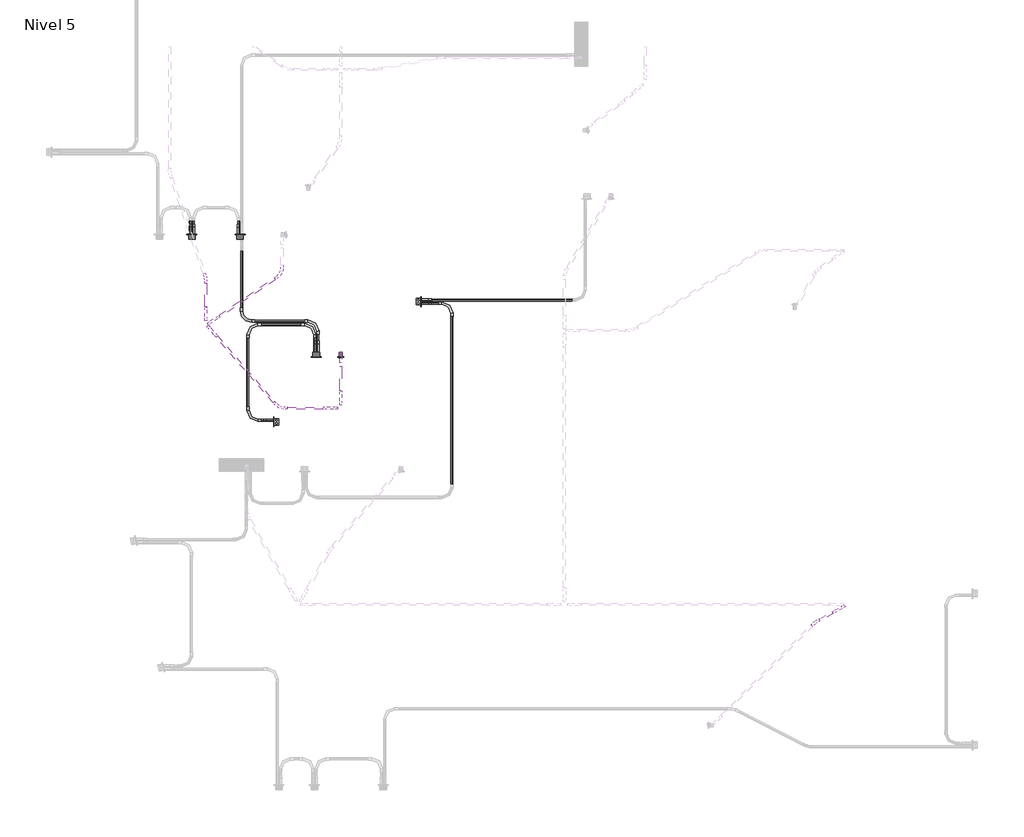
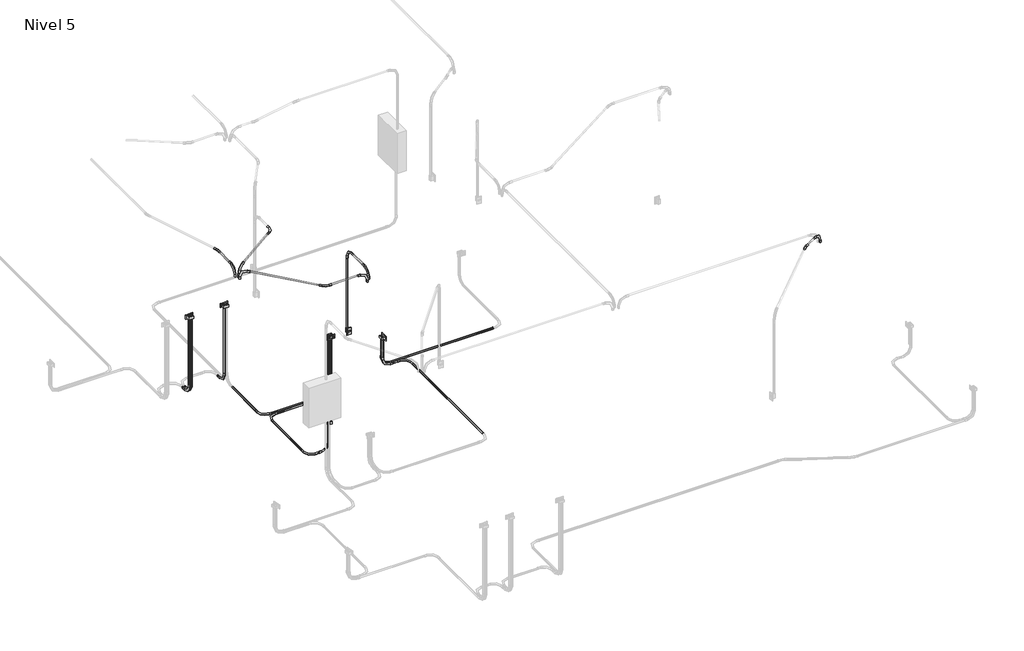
# One storey, part 4 of 9: 28 cable carrier segments, 25 cable carrier fittings, 5 proxies, 1 switching device.
"""IFC4 building model written with IfcOpenShell, lengths in millimetres."""

from ifc_helpers import new_model, si_unit, point, frame, frame_2d, origin, place, context, project, spatial, circle_curve, trimmed, segment, composite_curve, outline, extrude, transform, mapped, element, save
from components import gfci_180f1b41, m_codo_de_tubo_extremo_liso_pvc_9da73e12, m_codo_de_tubo_extremo_liso_pvc_b8f63c1c, m_codo_de_tubo_extremo_liso_pvc_102f0f41, m_codo_de_tubo_extremo_liso_pvc_df1a18ac, m_codo_de_tubo_extremo_liso_pvc_f02e6b77, m_codo_de_tubo_extremo_liso_pvc_835d7cdf, m_codo_de_tubo_extremo_liso_pvc_5f2cad99, switching_device_22fed34b

model = new_model("IFC4")

# Units and contexts
model_context = context("Model", 3, world=origin())
ifc_project = project(units=[si_unit("LENGTHUNIT", "METRE", prefix="MILLI")], contexts=[model_context])

# Site, building, storey
site = spatial("IfcSite", under=ifc_project)
building = spatial("IfcBuilding", under=site)
storey = spatial("IfcBuildingStorey", under=building, Name="Nivel 5", Elevation=10750.0)

# Proxies
placement = place(None, origin())
gfci_shape = gfci_180f1b41(model_context)
element("IfcBuildingElementProxy", 1, Name="Tomacorriente doble 220V : GFCI", ObjectType="Tomacorriente doble 220V : GFCI", at=placement, inside=storey, context=model_context, shape_type="MappedRepresentation", body=[
    mapped(gfci_shape, transform((257.8191014, 6450.3626818, 11950.0), x_axis=(0.0, 0.0, 1.0), y_axis=(1.0, 0.0, 0.0), z_axis=(0.0, 1.0, 0.0))),
])
element("IfcBuildingElementProxy", 2, Name="Tomacorriente doble 220V : GFCI", ObjectType="Tomacorriente doble 220V : GFCI", at=placement, inside=storey, context=model_context, shape_type="MappedRepresentation", body=[
    mapped(gfci_shape, transform((811.8641856, 6450.3626818, 11950.0), x_axis=(0.0, 0.0, 1.0), y_axis=(1.0, 0.0, 0.0), z_axis=(0.0, 1.0, 0.0))),
])
element("IfcBuildingElementProxy", 3, Name="Tomacorriente doble 220V : GFCI", ObjectType="Tomacorriente doble 220V : GFCI", at=placement, inside=storey, context=model_context, shape_type="MappedRepresentation", body=[
    mapped(gfci_shape, transform((1685.3979564, 5050.3626818, 11950.0), x_axis=(0.0, 0.0, 1.0), y_axis=(-1.0, 0.0, 0.0), z_axis=(0.0, -1.0, 0.0))),
])
element("IfcBuildingElementProxy", 4, Name="Tomacorriente doble 220V : GFCI", ObjectType="Tomacorriente doble 220V : GFCI", at=placement, inside=storey, context=model_context, shape_type="MappedRepresentation", body=[
    mapped(gfci_shape, transform((1200.0, 4304.0592526, 11150.0), x_axis=(0.0, 0.0, 1.0), y_axis=(0.0, 1.0, 0.0), z_axis=(-1.0, 0.0, 0.0))),
])
element("IfcBuildingElementProxy", 5, Name="Tomacorriente doble 220V : GFCI", ObjectType="Tomacorriente doble 220V : GFCI", at=placement, inside=storey, context=model_context, shape_type="MappedRepresentation", body=[
    mapped(gfci_shape, transform((2885.0, 5682.6850176, 11150.0), x_axis=(0.0, 0.0, 1.0), y_axis=(0.0, -1.0, 0.0), z_axis=(1.0, 0.0, 0.0))),
])

# Cable carrier fittings
m_codo_de_tubo_extremo_liso_pvc_shape = m_codo_de_tubo_extremo_liso_pvc_9da73e12(model_context)
element("IfcCableCarrierFitting", 6, ObjectType="M_Codo de tubo - Extremo liso - PVC : CODO POTENCIA", at=placement, inside=storey, context=model_context, shape_type="MappedRepresentation", body=[
    mapped(m_codo_de_tubo_extremo_liso_pvc_shape, transform((239.7872816, 6420.72557, 10680.0), x_axis=(0.0, 0.0, -1.0), y_axis=(0.0, 1.0, 0.0), z_axis=(1.0, 0.0, 0.0))),
])
element("IfcCableCarrierFitting", 7, ObjectType="M_Codo de tubo - Extremo liso - PVC : CODO POTENCIA", at=placement, inside=storey, context=model_context, shape_type="MappedRepresentation", body=[
    mapped(m_codo_de_tubo_extremo_liso_pvc_shape, transform((275.8509212, 6420.72557, 10680.0), x_axis=(0.0, 0.0, -1.0), y_axis=(0.0, 1.0, 0.0), z_axis=(1.0, 0.0, 0.0))),
])
element("IfcCableCarrierFitting", 8, ObjectType="M_Codo de tubo - Extremo liso - PVC : CODO POTENCIA", at=placement, inside=storey, context=model_context, shape_type="MappedRepresentation", body=[
    mapped(m_codo_de_tubo_extremo_liso_pvc_shape, transform((793.8323658, 6420.72557, 10680.0), x_axis=(0.0, 0.0, -1.0), y_axis=(0.0, 1.0, 0.0), z_axis=(1.0, 0.0, 0.0))),
])
element("IfcCableCarrierFitting", 9, ObjectType="M_Codo de tubo - Extremo liso - PVC : CODO POTENCIA", at=placement, inside=storey, context=model_context, shape_type="MappedRepresentation", body=[
    mapped(m_codo_de_tubo_extremo_liso_pvc_shape, transform((1667.3661366, 5079.9997935, 10680.0), x_axis=(0.0, 0.0, -1.0), y_axis=(0.0, 1.0, 0.0), z_axis=(1.0, 0.0, 0.0))),
])
element("IfcCableCarrierFitting", 10, ObjectType="M_Codo de tubo - Extremo liso - PVC : CODO POTENCIA", at=placement, inside=storey, context=model_context, shape_type="MappedRepresentation", body=[
    mapped(m_codo_de_tubo_extremo_liso_pvc_shape, transform((1229.6371118, 4322.0910724, 10680.0), x_axis=(0.0, 0.0, -1.0), y_axis=(-1.0, 0.0, 0.0), z_axis=(0.0, 1.0, 0.0))),
])
element("IfcCableCarrierFitting", 11, ObjectType="M_Codo de tubo - Extremo liso - PVC : CODO POTENCIA", at=placement, inside=storey, context=model_context, shape_type="MappedRepresentation", body=[
    mapped(m_codo_de_tubo_extremo_liso_pvc_shape, transform((1703.4297762, 5079.9997935, 10680.0), x_axis=(0.0, 0.0, -1.0), y_axis=(0.0, 1.0, 0.0), z_axis=(1.0, 0.0, 0.0))),
])
element("IfcCableCarrierFitting", 12, ObjectType="M_Codo de tubo - Extremo liso - PVC : CODO POTENCIA", at=placement, inside=storey, context=model_context, shape_type="MappedRepresentation", body=[
    mapped(m_codo_de_tubo_extremo_liso_pvc_shape, transform((900.7924962, 4322.0910724, 10680.0), x_axis=(0.0, -1.0, 0.0), y_axis=(1.0, 0.0, 0.0), z_axis=(0.0, 0.0, 1.0))),
])
element("IfcCableCarrierFitting", 13, ObjectType="M_Codo de tubo - Extremo liso - PVC : CODO POTENCIA", at=placement, inside=storey, context=model_context, shape_type="MappedRepresentation", body=[
    mapped(m_codo_de_tubo_extremo_liso_pvc_shape, transform((1667.3661366, 5420.0, 10680.0), x_axis=(0.0, 1.0, 0.0), y_axis=(-1.0, 0.0, 0.0), z_axis=(0.0, 0.0, 1.0))),
])
element("IfcCableCarrierFitting", 14, ObjectType="M_Codo de tubo - Extremo liso - PVC : CODO POTENCIA", at=placement, inside=storey, context=model_context, shape_type="MappedRepresentation", body=[
    mapped(m_codo_de_tubo_extremo_liso_pvc_shape, transform((900.7924962, 5420.0, 10680.0), x_axis=(-1.0, 0.0, 0.0), y_axis=(0.0, -1.0, 0.0), z_axis=(0.0, 0.0, 1.0))),
])
element("IfcCableCarrierFitting", 15, ObjectType="M_Codo de tubo - Extremo liso - PVC : CODO POTENCIA", at=placement, inside=storey, context=model_context, shape_type="MappedRepresentation", body=[
    mapped(m_codo_de_tubo_extremo_liso_pvc_shape, transform((1703.4297762, 5459.9997935, 10680.0), x_axis=(0.0, 1.0, 0.0), y_axis=(-1.0, 0.0, 0.0), z_axis=(0.0, 0.0, 1.0))),
])
element("IfcCableCarrierFitting", 16, ObjectType="M_Codo de tubo - Extremo liso - PVC : CODO POTENCIA", at=placement, inside=storey, context=model_context, shape_type="MappedRepresentation", body=[
    mapped(m_codo_de_tubo_extremo_liso_pvc_shape, transform((2855.3628882, 5700.7168374, 10680.0), x_axis=(0.0, 0.0, -1.0), y_axis=(1.0, 0.0, 0.0), z_axis=(0.0, -1.0, 0.0))),
])
element("IfcCableCarrierFitting", 17, ObjectType="M_Codo de tubo - Extremo liso - PVC : CODO POTENCIA", at=placement, inside=storey, context=model_context, shape_type="MappedRepresentation", body=[
    mapped(m_codo_de_tubo_extremo_liso_pvc_shape, transform((2855.3628882, 5664.6531978, 10680.0), x_axis=(0.0, 0.0, -1.0), y_axis=(1.0, 0.0, 0.0), z_axis=(0.0, -1.0, 0.0))),
])
element("IfcCableCarrierFitting", 18, ObjectType="M_Codo de tubo - Extremo liso - PVC : CODO POTENCIA", at=placement, inside=storey, context=model_context, shape_type="MappedRepresentation", body=[
    mapped(m_codo_de_tubo_extremo_liso_pvc_shape, transform((3240.3628882, 5664.6531978, 10680.0), x_axis=(0.0, 1.0, 0.0), y_axis=(-1.0, 0.0, 0.0), z_axis=(0.0, 0.0, 1.0))),
])
m_codo_de_tubo_extremo_liso_pvc_2_shape = m_codo_de_tubo_extremo_liso_pvc_b8f63c1c(model_context)
element("IfcCableCarrierFitting", 19, ObjectType="M_Codo de tubo - Extremo liso - PVC : CODO POTENCIA", at=placement, inside=storey, context=model_context, shape_type="MappedRepresentation", body=[
    mapped(m_codo_de_tubo_extremo_liso_pvc_2_shape, transform((827.8377422, 5459.9997935, 10680.0), x_axis=(-0.0028176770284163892, -0.9999960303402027, 0.0), y_axis=(0.9999960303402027, -0.0028176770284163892, 0.0), z_axis=(0.0, 0.0, 1.0))),
])
element("IfcCableCarrierFitting", 20, ObjectType="M_Codo de tubo - Extremo liso - PVC : CODO ILUMINACION", at=placement, inside=storey, context=model_context, shape_type="MappedRepresentation", body=[
    mapped(m_codo_de_tubo_extremo_liso_pvc_shape, transform((445.0989312, 5397.4142384, 13300.0), x_axis=(-0.6560590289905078, 0.7547095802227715, 0.0), y_axis=(0.0, 0.0, -1.0), z_axis=(-0.7547095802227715, -0.6560590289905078, 0.0))),
])
element("IfcCableCarrierFitting", 21, ObjectType="M_Codo de tubo - Extremo liso - PVC : CODO ILUMINACION", at=placement, inside=storey, context=model_context, shape_type="MappedRepresentation", body=[
    mapped(m_codo_de_tubo_extremo_liso_pvc_shape, transform((449.5230666, 5431.0188835, 13300.0), x_axis=(-0.8290375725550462, -0.5591929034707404, 0.0), y_axis=(0.0, 0.0, -1.0000000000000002), z_axis=(0.5591929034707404, -0.8290375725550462, 0.0))),
])
element("IfcCableCarrierFitting", 22, ObjectType="M_Codo de tubo - Extremo liso - PVC : CODO ILUMINACION", at=placement, inside=storey, context=model_context, shape_type="MappedRepresentation", body=[
    mapped(m_codo_de_tubo_extremo_liso_pvc_shape, transform((1964.7640795, 4507.7359931, 13300.0), x_axis=(0.0, -1.0, 0.0), y_axis=(0.0, 0.0, -1.0), z_axis=(1.0, 0.0, 0.0))),
])
element("IfcCableCarrierFitting", 23, ObjectType="M_Codo de tubo - Extremo liso - PVC : CODO ILUMINACION", at=placement, inside=storey, context=model_context, shape_type="MappedRepresentation", body=[
    mapped(m_codo_de_tubo_extremo_liso_pvc_shape, transform((1964.7640795, 5093.5015574, 13300.0), x_axis=(0.0, 0.0, 1.0), y_axis=(0.0, -1.0, 0.0), z_axis=(1.0, 0.0, 0.0))),
])
element("IfcCableCarrierFitting", 24, ObjectType="M_Codo de tubo - Extremo liso - PVC : CODO ILUMINACION", at=placement, inside=storey, context=model_context, shape_type="MappedRepresentation", body=[
    mapped(m_codo_de_tubo_extremo_liso_pvc_shape, transform((7741.6034421, 2189.7488137, 13300.0), x_axis=(0.8746197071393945, 0.48480962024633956, 0.0), y_axis=(0.0, 0.0, -1.0000000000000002), z_axis=(-0.48480962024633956, 0.8746197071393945, 0.0))),
])
m_codo_de_tubo_extremo_liso_pvc_3_shape = m_codo_de_tubo_extremo_liso_pvc_102f0f41(model_context)
element("IfcCableCarrierFitting", 25, ObjectType="M_Codo de tubo - Extremo liso - PVC : CODO ILUMINACION", at=placement, inside=storey, context=model_context, shape_type="MappedRepresentation", body=[
    mapped(m_codo_de_tubo_extremo_liso_pvc_3_shape, transform((1918.1878701, 4461.1597837, 13300.0), x_axis=(1.0, 0.0, 0.0), y_axis=(0.0, 0.0, 1.0), z_axis=(0.0, -1.0, 0.0))),
])
element("IfcCableCarrierFitting", 26, ObjectType="M_Codo de tubo - Extremo liso - PVC : CODO ILUMINACION", at=placement, inside=storey, context=model_context, shape_type="MappedRepresentation", body=[
    mapped(m_codo_de_tubo_extremo_liso_pvc_3_shape, transform((417.6915024, 5473.9445156, 13300.0), x_axis=(0.0, -1.0, 0.0), y_axis=(0.0, 0.0, 1.0), z_axis=(-1.0, 0.0, 0.0))),
])
m_codo_de_tubo_extremo_liso_pvc_4_shape = m_codo_de_tubo_extremo_liso_pvc_df1a18ac(model_context)
element("IfcCableCarrierFitting", 27, ObjectType="M_Codo de tubo - Extremo liso - PVC : CODO ILUMINACION", at=placement, inside=storey, context=model_context, shape_type="MappedRepresentation", body=[
    mapped(m_codo_de_tubo_extremo_liso_pvc_4_shape, transform((417.6915024, 5952.9070139, 13300.0), x_axis=(0.0, 1.0, 0.0), y_axis=(-1.0, 0.0, 0.0), z_axis=(0.0, 0.0, 1.0))),
])
m_codo_de_tubo_extremo_liso_pvc_5_shape = m_codo_de_tubo_extremo_liso_pvc_f02e6b77(model_context)
element("IfcCableCarrierFitting", 28, ObjectType="M_Codo de tubo - Extremo liso - PVC : CODO ILUMINACION", at=placement, inside=storey, context=model_context, shape_type="MappedRepresentation", body=[
    mapped(m_codo_de_tubo_extremo_liso_pvc_5_shape, transform((1258.9725119, 4461.1597837, 13300.0), x_axis=(0.6560590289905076, -0.7547095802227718, 0.0), y_axis=(0.7547095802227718, 0.6560590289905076, 0.0), z_axis=(0.0, 0.0, 1.0))),
])
m_codo_de_tubo_extremo_liso_pvc_6_shape = m_codo_de_tubo_extremo_liso_pvc_835d7cdf(model_context)
element("IfcCableCarrierFitting", 29, ObjectType="M_Codo de tubo - Extremo liso - PVC : CODO ILUMINACION", at=placement, inside=storey, context=model_context, shape_type="MappedRepresentation", body=[
    mapped(m_codo_de_tubo_extremo_liso_pvc_6_shape, transform((1291.8611243, 5999.1830775, 13300.0), x_axis=(0.8290375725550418, 0.5591929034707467, 0.0), y_axis=(-0.5591929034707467, 0.8290375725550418, 0.0), z_axis=(0.0, 0.0, 1.0))),
])
m_codo_de_tubo_extremo_liso_pvc_7_shape = m_codo_de_tubo_extremo_liso_pvc_5f2cad99(model_context)
element("IfcCableCarrierFitting", 30, ObjectType="M_Codo de tubo - Extremo liso - PVC : CODO ILUMINACION", at=placement, inside=storey, context=model_context, shape_type="MappedRepresentation", body=[
    mapped(m_codo_de_tubo_extremo_liso_pvc_7_shape, transform((7408.3733336, 2005.0363484, 13300.0), x_axis=(-0.8746197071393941, -0.4848096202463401, 0.0), y_axis=(0.4848096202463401, -0.8746197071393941, 0.0), z_axis=(0.0, 0.0, 1.0))),
])

# Cable carrier segments
element("IfcCableCarrierSegment", 31, ObjectType="PVC-SEL, POTENCIA", at=placement, inside=storey, context=model_context, shape_type="SweptSolid", body=[
    extrude(outline(composite_curve([segment(trimmed(circle_curve(frame_2d((10680.0, 239.7872816)), 11.71), [point((10680.0, 251.4972816))], [point((10691.71, 239.7872816))], False, "CARTESIAN"), True, "CONTINUOUS"), segment(trimmed(circle_curve(frame_2d((10680.0, 239.7872816)), 11.71), [point((10691.71, 239.7872816))], [point((10680.0, 228.0772816))], False, "CARTESIAN"), True, "CONTINUOUS"), segment(trimmed(circle_curve(frame_2d((10680.0, 239.7872816)), 11.71), [point((10680.0, 228.0772816))], [point((10668.29, 239.7872816))], False, "CARTESIAN"), True, "CONTINUOUS"), segment(trimmed(circle_curve(frame_2d((10680.0, 239.7872816)), 11.71), [point((10668.29, 239.7872816))], [point((10680.0, 251.4972816))], False, "CARTESIAN"), True, "CONTINUOUS")], self_intersect=False)), frame((0.0, 6573.12557, 0.0), z_axis=(0.0, 1.0, 0.0), x_axis=(0.0, 0.0, 1.0)), (0.0, 0.0, 1.0), 35.1697532),
])
element("IfcCableCarrierSegment", 32, ObjectType="PVC-SEL, POTENCIA", at=placement, inside=storey, context=model_context, shape_type="SweptSolid", body=[
    extrude(outline(composite_curve([segment(trimmed(circle_curve(frame_2d((239.7872816, 6420.72557)), 11.71), [point((251.4972816, 6420.72557))], [point((239.7872816, 6409.01557))], False, "CARTESIAN"), True, "CONTINUOUS"), segment(trimmed(circle_curve(frame_2d((239.7872816, 6420.72557)), 11.71), [point((239.7872816, 6409.01557))], [point((228.0772816, 6420.72557))], False, "CARTESIAN"), True, "CONTINUOUS"), segment(trimmed(circle_curve(frame_2d((239.7872816, 6420.72557)), 11.71), [point((228.0772816, 6420.72557))], [point((239.7872816, 6432.43557))], False, "CARTESIAN"), True, "CONTINUOUS"), segment(trimmed(circle_curve(frame_2d((239.7872816, 6420.72557)), 11.71), [point((239.7872816, 6432.43557))], [point((251.4972816, 6420.72557))], False, "CARTESIAN"), True, "CONTINUOUS")], self_intersect=False)), frame((0.0, 0.0, 10832.4), z_axis=(0.0, 0.0, 1.0), x_axis=(1.0, 0.0, 0.0)), (0.0, 0.0, 1.0), 1097.3020537),
])
element("IfcCableCarrierSegment", 33, ObjectType="PVC-SEL, POTENCIA", at=placement, inside=storey, context=model_context, shape_type="SweptSolid", body=[
    extrude(outline(composite_curve([segment(trimmed(circle_curve(frame_2d((10680.0, 275.8509212)), 11.71), [point((10680.0, 287.5609212))], [point((10691.71, 275.8509212))], False, "CARTESIAN"), True, "CONTINUOUS"), segment(trimmed(circle_curve(frame_2d((10680.0, 275.8509212)), 11.71), [point((10691.71, 275.8509212))], [point((10680.0, 264.1409212))], False, "CARTESIAN"), True, "CONTINUOUS"), segment(trimmed(circle_curve(frame_2d((10680.0, 275.8509212)), 11.71), [point((10680.0, 264.1409212))], [point((10668.29, 275.8509212))], False, "CARTESIAN"), True, "CONTINUOUS"), segment(trimmed(circle_curve(frame_2d((10680.0, 275.8509212)), 11.71), [point((10668.29, 275.8509212))], [point((10680.0, 287.5609212))], False, "CARTESIAN"), True, "CONTINUOUS")], self_intersect=False)), frame((0.0, 6573.12557, 0.0), z_axis=(0.0, 1.0, 0.0), x_axis=(0.0, 0.0, 1.0)), (0.0, 0.0, 1.0), 35.1697532),
])
element("IfcCableCarrierSegment", 34, ObjectType="PVC-SEL, POTENCIA", at=placement, inside=storey, context=model_context, shape_type="SweptSolid", body=[
    extrude(outline(composite_curve([segment(trimmed(circle_curve(frame_2d((275.8509212, 6420.72557)), 11.71), [point((287.5609212, 6420.72557))], [point((275.8509212, 6409.01557))], False, "CARTESIAN"), True, "CONTINUOUS"), segment(trimmed(circle_curve(frame_2d((275.8509212, 6420.72557)), 11.71), [point((275.8509212, 6409.01557))], [point((264.1409212, 6420.72557))], False, "CARTESIAN"), True, "CONTINUOUS"), segment(trimmed(circle_curve(frame_2d((275.8509212, 6420.72557)), 11.71), [point((264.1409212, 6420.72557))], [point((275.8509212, 6432.43557))], False, "CARTESIAN"), True, "CONTINUOUS"), segment(trimmed(circle_curve(frame_2d((275.8509212, 6420.72557)), 11.71), [point((275.8509212, 6432.43557))], [point((287.5609212, 6420.72557))], False, "CARTESIAN"), True, "CONTINUOUS")], self_intersect=False)), frame((0.0, 0.0, 10832.4), z_axis=(0.0, 0.0, 1.0), x_axis=(1.0, 0.0, 0.0)), (0.0, 0.0, 1.0), 1097.3020537),
])
element("IfcCableCarrierSegment", 35, ObjectType="PVC-SEL, POTENCIA", at=placement, inside=storey, context=model_context, shape_type="SweptSolid", body=[
    extrude(outline(composite_curve([segment(trimmed(circle_curve(frame_2d((10680.0, 793.8323658)), 11.71), [point((10680.0, 805.5423658))], [point((10691.71, 793.8323658))], False, "CARTESIAN"), True, "CONTINUOUS"), segment(trimmed(circle_curve(frame_2d((10680.0, 793.8323658)), 11.71), [point((10691.71, 793.8323658))], [point((10680.0, 782.1223658))], False, "CARTESIAN"), True, "CONTINUOUS"), segment(trimmed(circle_curve(frame_2d((10680.0, 793.8323658)), 11.71), [point((10680.0, 782.1223658))], [point((10668.29, 793.8323658))], False, "CARTESIAN"), True, "CONTINUOUS"), segment(trimmed(circle_curve(frame_2d((10680.0, 793.8323658)), 11.71), [point((10668.29, 793.8323658))], [point((10680.0, 805.5423658))], False, "CARTESIAN"), True, "CONTINUOUS")], self_intersect=False)), frame((0.0, 6573.12557, 0.0), z_axis=(0.0, 1.0, 0.0), x_axis=(0.0, 0.0, 1.0)), (0.0, 0.0, 1.0), 35.1697532),
])
element("IfcCableCarrierSegment", 36, ObjectType="PVC-SEL, POTENCIA", at=placement, inside=storey, context=model_context, shape_type="SweptSolid", body=[
    extrude(outline(composite_curve([segment(trimmed(circle_curve(frame_2d((793.8323658, 6420.72557)), 11.71), [point((805.5423658, 6420.72557))], [point((793.8323658, 6409.01557))], False, "CARTESIAN"), True, "CONTINUOUS"), segment(trimmed(circle_curve(frame_2d((793.8323658, 6420.72557)), 11.71), [point((793.8323658, 6409.01557))], [point((782.1223658, 6420.72557))], False, "CARTESIAN"), True, "CONTINUOUS"), segment(trimmed(circle_curve(frame_2d((793.8323658, 6420.72557)), 11.71), [point((782.1223658, 6420.72557))], [point((793.8323658, 6432.43557))], False, "CARTESIAN"), True, "CONTINUOUS"), segment(trimmed(circle_curve(frame_2d((793.8323658, 6420.72557)), 11.71), [point((793.8323658, 6432.43557))], [point((805.5423658, 6420.72557))], False, "CARTESIAN"), True, "CONTINUOUS")], self_intersect=False)), frame((0.0, 0.0, 10832.4), z_axis=(0.0, 0.0, 1.0), x_axis=(1.0, 0.0, 0.0)), (0.0, 0.0, 1.0), 1097.3020537),
])
element("IfcCableCarrierSegment", 37, ObjectType="PVC-SEL, POTENCIA", at=placement, inside=storey, context=model_context, shape_type="SweptSolid", body=[
    extrude(outline(composite_curve([segment(trimmed(circle_curve(frame_2d((0.0, -11.71)), 11.71), [point((-11.71, -11.71))], [point((0.0, 0.0))], False, "CARTESIAN"), True, "CONTINUOUS"), segment(trimmed(circle_curve(frame_2d((0.0, -11.71)), 11.71), [point((0.0, 0.0))], [point((11.7100001, -11.71))], False, "CARTESIAN"), True, "CONTINUOUS"), segment(trimmed(circle_curve(frame_2d((0.0, -11.71)), 11.71), [point((11.7100001, -11.71))], [point((0.0, -23.42))], False, "CARTESIAN"), True, "CONTINUOUS"), segment(trimmed(circle_curve(frame_2d((0.0, -11.71)), 11.71), [point((0.0, -23.42))], [point((-11.71, -11.71))], False, "CARTESIAN"), True, "CONTINUOUS")], self_intersect=False)), frame((828.2680649, 5612.7217028, 10668.29), z_axis=(0.002817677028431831, 0.9999960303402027, 0.0), x_axis=(0.9999960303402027, -0.002817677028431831, 0.0)), (0.0, 0.0, 1.0), 654.5088944),
])
element("IfcCableCarrierSegment", 38, ObjectType="PVC-SEL, POTENCIA", at=placement, inside=storey, context=model_context, shape_type="SweptSolid", body=[
    extrude(outline(composite_curve([segment(trimmed(circle_curve(frame_2d((10680.0, 1667.3661366)), 11.71), [point((10680.0, 1679.0761366))], [point((10691.71, 1667.3661366))], False, "CARTESIAN"), True, "CONTINUOUS"), segment(trimmed(circle_curve(frame_2d((10680.0, 1667.3661366)), 11.71), [point((10691.71, 1667.3661366))], [point((10680.0, 1655.6561366))], False, "CARTESIAN"), True, "CONTINUOUS"), segment(trimmed(circle_curve(frame_2d((10680.0, 1667.3661366)), 11.71), [point((10680.0, 1655.6561366))], [point((10668.29, 1667.3661366))], False, "CARTESIAN"), True, "CONTINUOUS"), segment(trimmed(circle_curve(frame_2d((10680.0, 1667.3661366)), 11.71), [point((10668.29, 1667.3661366))], [point((10680.0, 1679.0761366))], False, "CARTESIAN"), True, "CONTINUOUS")], self_intersect=False)), frame((0.0, 5232.3997935, 0.0), z_axis=(0.0, 1.0, 0.0), x_axis=(0.0, 0.0, 1.0)), (0.0, 0.0, 1.0), 35.2002065),
])
element("IfcCableCarrierSegment", 39, ObjectType="PVC-SEL, POTENCIA", at=placement, inside=storey, context=model_context, shape_type="SweptSolid", body=[
    extrude(outline(composite_curve([segment(trimmed(circle_curve(frame_2d((1667.3661366, 5079.9997935)), 11.71), [point((1679.0761366, 5079.9997935))], [point((1667.3661366, 5068.2897935))], False, "CARTESIAN"), True, "CONTINUOUS"), segment(trimmed(circle_curve(frame_2d((1667.3661366, 5079.9997935)), 11.71), [point((1667.3661366, 5068.2897935))], [point((1655.6561366, 5079.9997935))], False, "CARTESIAN"), True, "CONTINUOUS"), segment(trimmed(circle_curve(frame_2d((1667.3661366, 5079.9997935)), 11.71), [point((1655.6561366, 5079.9997935))], [point((1667.3661366, 5091.7097935))], False, "CARTESIAN"), True, "CONTINUOUS"), segment(trimmed(circle_curve(frame_2d((1667.3661366, 5079.9997935)), 11.71), [point((1667.3661366, 5091.7097935))], [point((1679.0761366, 5079.9997935))], False, "CARTESIAN"), True, "CONTINUOUS")], self_intersect=False)), frame((0.0, 0.0, 10832.4), z_axis=(0.0, 0.0, 1.0), x_axis=(1.0, 0.0, 0.0)), (0.0, 0.0, 1.0), 1097.3020537),
])
element("IfcCableCarrierSegment", 40, ObjectType="PVC-SEL, POTENCIA", at=placement, inside=storey, context=model_context, shape_type="SweptSolid", body=[
    extrude(outline(composite_curve([segment(trimmed(circle_curve(frame_2d((4322.0910724, 10680.0)), 11.71), [point((4333.8010724, 10680.0))], [point((4322.0910724, 10668.29))], False, "CARTESIAN"), True, "CONTINUOUS"), segment(trimmed(circle_curve(frame_2d((4322.0910724, 10680.0)), 11.71), [point((4322.0910724, 10668.29))], [point((4310.3810724, 10680.0))], False, "CARTESIAN"), True, "CONTINUOUS"), segment(trimmed(circle_curve(frame_2d((4322.0910724, 10680.0)), 11.71), [point((4310.3810724, 10680.0))], [point((4322.0910724, 10691.71))], False, "CARTESIAN"), True, "CONTINUOUS"), segment(trimmed(circle_curve(frame_2d((4322.0910724, 10680.0)), 11.71), [point((4322.0910724, 10691.71))], [point((4333.8010724, 10680.0))], False, "CARTESIAN"), True, "CONTINUOUS")], self_intersect=False)), frame((1053.1924962, 0.0, 0.0), z_axis=(1.0, 0.0, 0.0), x_axis=(0.0, 1.0, 0.0)), (0.0, 0.0, 1.0), 24.0446156),
])
element("IfcCableCarrierSegment", 41, ObjectType="PVC-SEL, POTENCIA", at=placement, inside=storey, context=model_context, shape_type="SweptSolid", body=[
    extrude(outline(composite_curve([segment(trimmed(circle_curve(frame_2d((1229.6371118, 4322.0910724)), 11.71), [point((1241.3471118, 4322.0910724))], [point((1229.6371118, 4310.3810724))], False, "CARTESIAN"), True, "CONTINUOUS"), segment(trimmed(circle_curve(frame_2d((1229.6371118, 4322.0910724)), 11.71), [point((1229.6371118, 4310.3810724))], [point((1217.9271118, 4322.0910724))], False, "CARTESIAN"), True, "CONTINUOUS"), segment(trimmed(circle_curve(frame_2d((1229.6371118, 4322.0910724)), 11.71), [point((1217.9271118, 4322.0910724))], [point((1229.6371118, 4333.8010724))], False, "CARTESIAN"), True, "CONTINUOUS"), segment(trimmed(circle_curve(frame_2d((1229.6371118, 4322.0910724)), 11.71), [point((1229.6371118, 4333.8010724))], [point((1241.3471118, 4322.0910724))], False, "CARTESIAN"), True, "CONTINUOUS")], self_intersect=False)), frame((0.0, 0.0, 10832.4), z_axis=(0.0, 0.0, 1.0), x_axis=(1.0, 0.0, 0.0)), (0.0, 0.0, 1.0), 297.3020537),
])
element("IfcCableCarrierSegment", 42, ObjectType="PVC-SEL, POTENCIA", at=placement, inside=storey, context=model_context, shape_type="SweptSolid", body=[
    extrude(outline(composite_curve([segment(trimmed(circle_curve(frame_2d((10680.0, 1703.4297762)), 11.71), [point((10680.0, 1715.1397762))], [point((10691.71, 1703.4297762))], False, "CARTESIAN"), True, "CONTINUOUS"), segment(trimmed(circle_curve(frame_2d((10680.0, 1703.4297762)), 11.71), [point((10691.71, 1703.4297762))], [point((10680.0, 1691.7197762))], False, "CARTESIAN"), True, "CONTINUOUS"), segment(trimmed(circle_curve(frame_2d((10680.0, 1703.4297762)), 11.71), [point((10680.0, 1691.7197762))], [point((10668.29, 1703.4297762))], False, "CARTESIAN"), True, "CONTINUOUS"), segment(trimmed(circle_curve(frame_2d((10680.0, 1703.4297762)), 11.71), [point((10668.29, 1703.4297762))], [point((10680.0, 1715.1397762))], False, "CARTESIAN"), True, "CONTINUOUS")], self_intersect=False)), frame((0.0, 5232.3997935, 0.0), z_axis=(0.0, 1.0, 0.0), x_axis=(0.0, 0.0, 1.0)), (0.0, 0.0, 1.0), 75.2),
])
element("IfcCableCarrierSegment", 43, ObjectType="PVC-SEL, POTENCIA", at=placement, inside=storey, context=model_context, shape_type="SweptSolid", body=[
    extrude(outline(composite_curve([segment(trimmed(circle_curve(frame_2d((1703.4297762, 5079.9997935)), 11.71), [point((1715.1397762, 5079.9997935))], [point((1703.4297762, 5068.2897935))], False, "CARTESIAN"), True, "CONTINUOUS"), segment(trimmed(circle_curve(frame_2d((1703.4297762, 5079.9997935)), 11.71), [point((1703.4297762, 5068.2897935))], [point((1691.7197762, 5079.9997935))], False, "CARTESIAN"), True, "CONTINUOUS"), segment(trimmed(circle_curve(frame_2d((1703.4297762, 5079.9997935)), 11.71), [point((1691.7197762, 5079.9997935))], [point((1703.4297762, 5091.7097935))], False, "CARTESIAN"), True, "CONTINUOUS"), segment(trimmed(circle_curve(frame_2d((1703.4297762, 5079.9997935)), 11.71), [point((1703.4297762, 5091.7097935))], [point((1715.1397762, 5079.9997935))], False, "CARTESIAN"), True, "CONTINUOUS")], self_intersect=False)), frame((0.0, 0.0, 10832.4), z_axis=(0.0, 0.0, 1.0), x_axis=(1.0, 0.0, 0.0)), (0.0, 0.0, 1.0), 1097.3020537),
])
element("IfcCableCarrierSegment", 44, ObjectType="PVC-SEL, POTENCIA", at=placement, inside=storey, context=model_context, shape_type="SweptSolid", body=[
    extrude(outline(composite_curve([segment(trimmed(circle_curve(frame_2d((10680.0, 900.7924962)), 11.71), [point((10680.0, 912.5024962))], [point((10691.71, 900.7924962))], False, "CARTESIAN"), True, "CONTINUOUS"), segment(trimmed(circle_curve(frame_2d((10680.0, 900.7924962)), 11.71), [point((10691.71, 900.7924962))], [point((10680.0, 889.0824962))], False, "CARTESIAN"), True, "CONTINUOUS"), segment(trimmed(circle_curve(frame_2d((10680.0, 900.7924962)), 11.71), [point((10680.0, 889.0824962))], [point((10668.29, 900.7924962))], False, "CARTESIAN"), True, "CONTINUOUS"), segment(trimmed(circle_curve(frame_2d((10680.0, 900.7924962)), 11.71), [point((10668.29, 900.7924962))], [point((10680.0, 912.5024962))], False, "CARTESIAN"), True, "CONTINUOUS")], self_intersect=False)), frame((0.0, 4474.4910724, 0.0), z_axis=(0.0, 1.0, 0.0), x_axis=(0.0, 0.0, 1.0)), (0.0, 0.0, 1.0), 793.1089276),
])
element("IfcCableCarrierSegment", 45, ObjectType="PVC-SEL, POTENCIA", at=placement, inside=storey, context=model_context, shape_type="SweptSolid", body=[
    extrude(outline(composite_curve([segment(trimmed(circle_curve(frame_2d((5420.0, 10680.0)), 11.71), [point((5431.71, 10680.0))], [point((5420.0, 10668.29))], False, "CARTESIAN"), True, "CONTINUOUS"), segment(trimmed(circle_curve(frame_2d((5420.0, 10680.0)), 11.71), [point((5420.0, 10668.29))], [point((5408.29, 10680.0))], False, "CARTESIAN"), True, "CONTINUOUS"), segment(trimmed(circle_curve(frame_2d((5420.0, 10680.0)), 11.71), [point((5408.29, 10680.0))], [point((5420.0, 10691.71))], False, "CARTESIAN"), True, "CONTINUOUS"), segment(trimmed(circle_curve(frame_2d((5420.0, 10680.0)), 11.71), [point((5420.0, 10691.71))], [point((5431.71, 10680.0))], False, "CARTESIAN"), True, "CONTINUOUS")], self_intersect=False)), frame((1053.1924962, 0.0, 0.0), z_axis=(1.0, 0.0, 0.0), x_axis=(0.0, 1.0, 0.0)), (0.0, 0.0, 1.0), 461.7736404),
])
element("IfcCableCarrierSegment", 46, ObjectType="PVC-SEL, POTENCIA", at=placement, inside=storey, context=model_context, shape_type="SweptSolid", body=[
    extrude(outline(composite_curve([segment(trimmed(circle_curve(frame_2d((5459.9997935, 10680.0)), 11.71), [point((5448.2897935, 10680.0))], [point((5459.9997935, 10691.71))], False, "CARTESIAN"), True, "CONTINUOUS"), segment(trimmed(circle_curve(frame_2d((5459.9997935, 10680.0)), 11.71), [point((5459.9997935, 10691.71))], [point((5471.7097935, 10680.0))], False, "CARTESIAN"), True, "CONTINUOUS"), segment(trimmed(circle_curve(frame_2d((5459.9997935, 10680.0)), 11.71), [point((5471.7097935, 10680.0))], [point((5459.9997935, 10668.29))], False, "CARTESIAN"), True, "CONTINUOUS"), segment(trimmed(circle_curve(frame_2d((5459.9997935, 10680.0)), 11.71), [point((5459.9997935, 10668.29))], [point((5448.2897935, 10680.0))], False, "CARTESIAN"), True, "CONTINUOUS")], self_intersect=False)), frame((980.5602577, 0.0, 0.0), z_axis=(1.0, 0.0, 0.0), x_axis=(0.0, 1.0, 0.0)), (0.0, 0.0, 1.0), 570.4695185),
])
element("IfcCableCarrierSegment", 47, ObjectType="PVC-SEL, POTENCIA", at=placement, inside=storey, context=model_context, shape_type="SweptSolid", body=[
    extrude(outline(composite_curve([segment(trimmed(circle_curve(frame_2d((5700.7168374, 10680.0)), 11.71), [point((5689.0068374, 10680.0))], [point((5700.7168374, 10691.71))], False, "CARTESIAN"), True, "CONTINUOUS"), segment(trimmed(circle_curve(frame_2d((5700.7168374, 10680.0)), 11.71), [point((5700.7168374, 10691.71))], [point((5712.4268374, 10680.0))], False, "CARTESIAN"), True, "CONTINUOUS"), segment(trimmed(circle_curve(frame_2d((5700.7168374, 10680.0)), 11.71), [point((5712.4268374, 10680.0))], [point((5700.7168374, 10668.29))], False, "CARTESIAN"), True, "CONTINUOUS"), segment(trimmed(circle_curve(frame_2d((5700.7168374, 10680.0)), 11.71), [point((5700.7168374, 10668.29))], [point((5689.0068374, 10680.0))], False, "CARTESIAN"), True, "CONTINUOUS")], self_intersect=False)), frame((3007.7628882, 0.0, 0.0), z_axis=(1.0, 0.0, 0.0), x_axis=(0.0, 1.0, 0.0)), (0.0, 0.0, 1.0), 1610.7495501),
])
element("IfcCableCarrierSegment", 48, ObjectType="PVC-SEL, POTENCIA", at=placement, inside=storey, context=model_context, shape_type="SweptSolid", body=[
    extrude(outline(composite_curve([segment(trimmed(circle_curve(frame_2d((2855.3628882, 5700.7168374)), 11.71), [point((2867.0728882, 5700.7168374))], [point((2855.3628882, 5689.0068374))], False, "CARTESIAN"), True, "CONTINUOUS"), segment(trimmed(circle_curve(frame_2d((2855.3628882, 5700.7168374)), 11.71), [point((2855.3628882, 5689.0068374))], [point((2843.6528882, 5700.7168374))], False, "CARTESIAN"), True, "CONTINUOUS"), segment(trimmed(circle_curve(frame_2d((2855.3628882, 5700.7168374)), 11.71), [point((2843.6528882, 5700.7168374))], [point((2855.3628882, 5712.4268374))], False, "CARTESIAN"), True, "CONTINUOUS"), segment(trimmed(circle_curve(frame_2d((2855.3628882, 5700.7168374)), 11.71), [point((2855.3628882, 5712.4268374))], [point((2867.0728882, 5700.7168374))], False, "CARTESIAN"), True, "CONTINUOUS")], self_intersect=False)), frame((0.0, 0.0, 10832.4), z_axis=(0.0, 0.0, 1.0), x_axis=(1.0, 0.0, 0.0)), (0.0, 0.0, 1.0), 297.3020537),
])
element("IfcCableCarrierSegment", 49, ObjectType="PVC-SEL, POTENCIA", at=placement, inside=storey, context=model_context, shape_type="SweptSolid", body=[
    extrude(outline(composite_curve([segment(trimmed(circle_curve(frame_2d((5664.6531978, 10680.0)), 11.71), [point((5652.9431978, 10680.0))], [point((5664.6531978, 10691.71))], False, "CARTESIAN"), True, "CONTINUOUS"), segment(trimmed(circle_curve(frame_2d((5664.6531978, 10680.0)), 11.71), [point((5664.6531978, 10691.71))], [point((5676.3631978, 10680.0))], False, "CARTESIAN"), True, "CONTINUOUS"), segment(trimmed(circle_curve(frame_2d((5664.6531978, 10680.0)), 11.71), [point((5676.3631978, 10680.0))], [point((5664.6531978, 10668.29))], False, "CARTESIAN"), True, "CONTINUOUS"), segment(trimmed(circle_curve(frame_2d((5664.6531978, 10680.0)), 11.71), [point((5664.6531978, 10668.29))], [point((5652.9431978, 10680.0))], False, "CARTESIAN"), True, "CONTINUOUS")], self_intersect=False)), frame((3007.7628882, 0.0, 0.0), z_axis=(1.0, 0.0, 0.0), x_axis=(0.0, 1.0, 0.0)), (0.0, 0.0, 1.0), 80.2),
])
element("IfcCableCarrierSegment", 50, ObjectType="PVC-SEL, POTENCIA", at=placement, inside=storey, context=model_context, shape_type="SweptSolid", body=[
    extrude(outline(composite_curve([segment(trimmed(circle_curve(frame_2d((2855.3628882, 5664.6531978)), 11.71), [point((2867.0728882, 5664.6531978))], [point((2855.3628882, 5652.9431978))], False, "CARTESIAN"), True, "CONTINUOUS"), segment(trimmed(circle_curve(frame_2d((2855.3628882, 5664.6531978)), 11.71), [point((2855.3628882, 5652.9431978))], [point((2843.6528882, 5664.6531978))], False, "CARTESIAN"), True, "CONTINUOUS"), segment(trimmed(circle_curve(frame_2d((2855.3628882, 5664.6531978)), 11.71), [point((2843.6528882, 5664.6531978))], [point((2855.3628882, 5676.3631978))], False, "CARTESIAN"), True, "CONTINUOUS"), segment(trimmed(circle_curve(frame_2d((2855.3628882, 5664.6531978)), 11.71), [point((2855.3628882, 5676.3631978))], [point((2867.0728882, 5664.6531978))], False, "CARTESIAN"), True, "CONTINUOUS")], self_intersect=False)), frame((0.0, 0.0, 10832.4), z_axis=(0.0, 0.0, 1.0), x_axis=(1.0, 0.0, 0.0)), (0.0, 0.0, 1.0), 297.3020537),
])
element("IfcCableCarrierSegment", 51, ObjectType="PVC-SEL, POTENCIA", at=placement, inside=storey, context=model_context, shape_type="SweptSolid", body=[
    extrude(outline(composite_curve([segment(trimmed(circle_curve(frame_2d((10680.0, 3240.3628882)), 11.71), [point((10680.0, 3228.6528882))], [point((10668.29, 3240.3628882))], False, "CARTESIAN"), True, "CONTINUOUS"), segment(trimmed(circle_curve(frame_2d((10680.0, 3240.3628882)), 11.71), [point((10668.29, 3240.3628882))], [point((10680.0, 3252.0728882))], False, "CARTESIAN"), True, "CONTINUOUS"), segment(trimmed(circle_curve(frame_2d((10680.0, 3240.3628882)), 11.71), [point((10680.0, 3252.0728882))], [point((10691.71, 3240.3628882))], False, "CARTESIAN"), True, "CONTINUOUS"), segment(trimmed(circle_curve(frame_2d((10680.0, 3240.3628882)), 11.71), [point((10691.71, 3240.3628882))], [point((10680.0, 3228.6528882))], False, "CARTESIAN"), True, "CONTINUOUS")], self_intersect=False)), frame((0.0, 3588.4346106, 0.0), z_axis=(0.0, 1.0, 0.0), x_axis=(0.0, 0.0, 1.0)), (0.0, 0.0, 1.0), 1923.8185872),
])
element("IfcCableCarrierSegment", 52, ObjectType="PVC-SEL ILUMINACION", at=placement, inside=storey, context=model_context, shape_type="SweptSolid", body=[
    extrude(outline(composite_curve([segment(trimmed(circle_curve(frame_2d((13300.0, 417.6915024)), 11.71), [point((13300.0, 405.9815024))], [point((13288.29, 417.6915024))], False, "CARTESIAN"), True, "CONTINUOUS"), segment(trimmed(circle_curve(frame_2d((13300.0, 417.6915024)), 11.71), [point((13288.29, 417.6915024))], [point((13300.0, 429.4015024))], False, "CARTESIAN"), True, "CONTINUOUS"), segment(trimmed(circle_curve(frame_2d((13300.0, 417.6915024)), 11.71), [point((13300.0, 429.4015024))], [point((13311.71, 417.6915024))], False, "CARTESIAN"), True, "CONTINUOUS"), segment(trimmed(circle_curve(frame_2d((13300.0, 417.6915024)), 11.71), [point((13311.71, 417.6915024))], [point((13300.0, 405.9815024))], False, "CARTESIAN"), True, "CONTINUOUS")], self_intersect=False)), frame((0.0, 5626.3445156, 0.0), z_axis=(0.0, 1.0, 0.0), x_axis=(0.0, 0.0, 1.0)), (0.0, 0.0, 1.0), 269.3352381),
])
element("IfcCableCarrierSegment", 53, ObjectType="PVC-SEL ILUMINACION", at=placement, inside=storey, context=model_context, shape_type="SweptSolid", body=[
    extrude(outline(composite_curve([segment(trimmed(circle_curve(frame_2d((0.0, -11.71)), 11.71), [point((-11.7099999, -11.71))], [point((0.0, 0.0))], False, "CARTESIAN"), True, "CONTINUOUS"), segment(trimmed(circle_curve(frame_2d((0.0, -11.71)), 11.71), [point((0.0, 0.0))], [point((11.71, -11.71))], False, "CARTESIAN"), True, "CONTINUOUS"), segment(trimmed(circle_curve(frame_2d((0.0, -11.71)), 11.71), [point((11.71, -11.71))], [point((0.0, -23.42))], False, "CARTESIAN"), True, "CONTINUOUS"), segment(trimmed(circle_curve(frame_2d((0.0, -11.71)), 11.71), [point((0.0, -23.42))], [point((-11.7099999, -11.71))], False, "CARTESIAN"), True, "CONTINUOUS")], self_intersect=False)), frame((1199.8028688, 4529.2266717, 13288.29), z_axis=(-0.6560590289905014, 0.7547095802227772, 0.0), x_axis=(0.7547095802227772, 0.6560590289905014, 0.0)), (0.0, 0.0, 1.0), 997.9598065),
])
element("IfcCableCarrierSegment", 54, ObjectType="PVC-SEL ILUMINACION", at=placement, inside=storey, context=model_context, shape_type="SweptSolid", body=[
    extrude(outline(composite_curve([segment(trimmed(circle_curve(frame_2d((4461.1597837, 13300.0)), 11.71), [point((4449.4497837, 13300.0))], [point((4461.1597837, 13311.71))], False, "CARTESIAN"), True, "CONTINUOUS"), segment(trimmed(circle_curve(frame_2d((4461.1597837, 13300.0)), 11.71), [point((4461.1597837, 13311.71))], [point((4472.8697837, 13300.0))], False, "CARTESIAN"), True, "CONTINUOUS"), segment(trimmed(circle_curve(frame_2d((4461.1597837, 13300.0)), 11.71), [point((4472.8697837, 13300.0))], [point((4461.1597837, 13288.29))], False, "CARTESIAN"), True, "CONTINUOUS"), segment(trimmed(circle_curve(frame_2d((4461.1597837, 13300.0)), 11.71), [point((4461.1597837, 13288.29))], [point((4449.4497837, 13300.0))], False, "CARTESIAN"), True, "CONTINUOUS")], self_intersect=False)), frame((1349.1620229, 0.0, 0.0), z_axis=(1.0, 0.0, 0.0), x_axis=(0.0, 1.0, 0.0)), (0.0, 0.0, 1.0), 416.6258473),
])
element("IfcCableCarrierSegment", 55, ObjectType="PVC-SEL ILUMINACION", at=placement, inside=storey, context=model_context, shape_type="SweptSolid", body=[
    extrude(outline(composite_curve([segment(trimmed(circle_curve(frame_2d((0.0, -11.71)), 11.71), [point((-11.71, -11.71))], [point((0.0, 0.0))], False, "CARTESIAN"), True, "CONTINUOUS"), segment(trimmed(circle_curve(frame_2d((0.0, -11.71)), 11.71), [point((0.0, 0.0))], [point((11.71, -11.71))], False, "CARTESIAN"), True, "CONTINUOUS"), segment(trimmed(circle_curve(frame_2d((0.0, -11.71)), 11.71), [point((11.71, -11.71))], [point((0.0, -23.42))], False, "CARTESIAN"), True, "CONTINUOUS"), segment(trimmed(circle_curve(frame_2d((0.0, -11.71)), 11.71), [point((0.0, -23.42))], [point((-11.71, -11.71))], False, "CARTESIAN"), True, "CONTINUOUS")], self_intersect=False)), frame((575.8683927, 5516.239882, 13288.29), z_axis=(0.8290375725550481, 0.5591929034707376, 0.0), x_axis=(0.5591929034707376, -0.8290375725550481, 0.0)), (0.0, 0.0, 1.0), 764.7688959),
])
element("IfcCableCarrierSegment", 56, ObjectType="PVC-SEL ILUMINACION", at=placement, inside=storey, context=model_context, shape_type="SweptSolid", body=[
    extrude(outline(composite_curve([segment(trimmed(circle_curve(frame_2d((1964.7640795, 5093.5015574)), 11.71), [point((1953.0540795, 5093.5015574))], [point((1964.7640795, 5105.2115574))], False, "CARTESIAN"), True, "CONTINUOUS"), segment(trimmed(circle_curve(frame_2d((1964.7640795, 5093.5015574)), 11.71), [point((1964.7640795, 5105.2115574))], [point((1976.4740795, 5093.5015574))], False, "CARTESIAN"), True, "CONTINUOUS"), segment(trimmed(circle_curve(frame_2d((1964.7640795, 5093.5015574)), 11.71), [point((1976.4740795, 5093.5015574))], [point((1964.7640795, 5081.7915574))], False, "CARTESIAN"), True, "CONTINUOUS"), segment(trimmed(circle_curve(frame_2d((1964.7640795, 5093.5015574)), 11.71), [point((1964.7640795, 5081.7915574))], [point((1953.0540795, 5093.5015574))], False, "CARTESIAN"), True, "CONTINUOUS")], self_intersect=False)), frame((0.0, 0.0, 11990.2227463), z_axis=(0.0, 0.0, 1.0), x_axis=(1.0, 0.0, 0.0)), (0.0, 0.0, 1.0), 1157.3772537),
])
element("IfcCableCarrierSegment", 57, ObjectType="PVC-SEL ILUMINACION", at=placement, inside=storey, context=model_context, shape_type="SweptSolid", body=[
    extrude(outline(composite_curve([segment(trimmed(circle_curve(frame_2d((13300.0, 1964.7640795)), 11.71), [point((13300.0, 1976.4740795))], [point((13311.71, 1964.7640795))], False, "CARTESIAN"), True, "CONTINUOUS"), segment(trimmed(circle_curve(frame_2d((13300.0, 1964.7640795)), 11.71), [point((13311.71, 1964.7640795))], [point((13300.0, 1953.0540795))], False, "CARTESIAN"), True, "CONTINUOUS"), segment(trimmed(circle_curve(frame_2d((13300.0, 1964.7640795)), 11.71), [point((13300.0, 1953.0540795))], [point((13288.29, 1964.7640795))], False, "CARTESIAN"), True, "CONTINUOUS"), segment(trimmed(circle_curve(frame_2d((13300.0, 1964.7640795)), 11.71), [point((13288.29, 1964.7640795))], [point((13300.0, 1976.4740795))], False, "CARTESIAN"), True, "CONTINUOUS")], self_intersect=False)), frame((0.0, 4660.1359931, 0.0), z_axis=(0.0, 1.0, 0.0), x_axis=(0.0, 0.0, 1.0)), (0.0, 0.0, 1.0), 280.9655643),
])
element("IfcCableCarrierSegment", 58, ObjectType="PVC-SEL ILUMINACION", at=placement, inside=storey, context=model_context, shape_type="SweptSolid", body=[
    extrude(outline(composite_curve([segment(trimmed(circle_curve(frame_2d((0.0, -11.71)), 11.71), [point((-11.71, -11.71))], [point((0.0, 0.0))], False, "CARTESIAN"), True, "CONTINUOUS"), segment(trimmed(circle_curve(frame_2d((0.0, -11.71)), 11.71), [point((0.0, 0.0))], [point((11.71, -11.71))], False, "CARTESIAN"), True, "CONTINUOUS"), segment(trimmed(circle_curve(frame_2d((0.0, -11.71)), 11.71), [point((11.71, -11.71))], [point((0.0, -23.42))], False, "CARTESIAN"), True, "CONTINUOUS"), segment(trimmed(circle_curve(frame_2d((0.0, -11.71)), 11.71), [point((0.0, -23.42))], [point((-11.71, -11.71))], False, "CARTESIAN"), True, "CONTINUOUS")], self_intersect=False)), frame((7455.9355699, 2031.4005264, 13288.29), z_axis=(0.8746197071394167, 0.48480962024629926, 0.0), x_axis=(0.48480962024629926, -0.8746197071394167, 0.0)), (0.0, 0.0, 1.0), 174.2195237),
])

# Switching device
switching_device_shape = switching_device_22fed34b(model_context)
element("IfcSwitchingDevice", 59, ObjectType="Interruptor : Tridireccional", at=placement, inside=storey, context=model_context, shape_type="MappedRepresentation", body=[
    mapped(switching_device_shape, transform((1964.8139252, 5050.3626818, 11950.0), x_axis=(1.0, 0.0, 0.0), y_axis=(0.0, 0.0, 1.0), z_axis=(0.0, -1.0, 0.0))),
])

save(model, "model.ifc")
